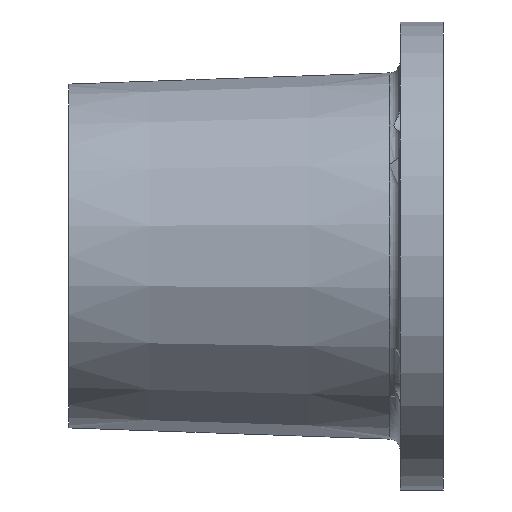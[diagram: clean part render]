
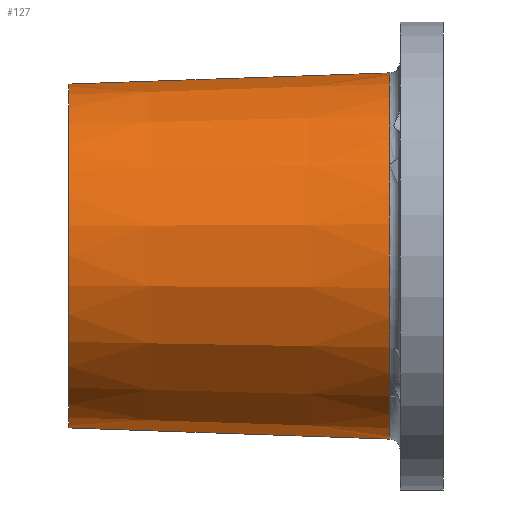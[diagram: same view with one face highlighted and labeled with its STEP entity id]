
A CAD part, left-side view. The second image highlights one B-rep face of the part: STEP entity #127.
In plain terms, the highlighted conical face has half-angle 2 degrees and reference radius 69.966 mm.
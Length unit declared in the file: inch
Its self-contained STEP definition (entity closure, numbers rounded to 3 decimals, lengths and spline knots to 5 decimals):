
#127 = ADVANCED_FACE ( 'NONE', ( #1567 ), #8176, .T. ) ;
#191 = VERTEX_POINT ( 'NONE', #1667 ) ;
#366 = CARTESIAN_POINT ( 'NONE',  ( 0., 6., -2.75457 ) ) ;
#473 = LINE ( 'NONE', #2322, #7710 ) ;
#568 = CARTESIAN_POINT ( 'NONE',  ( 0., 0.86372, 2.93393 ) ) ;
#859 = CARTESIAN_POINT ( 'NONE',  ( 0., 0.86372, -2.93393 ) ) ;
#1567 = FACE_OUTER_BOUND ( 'NONE', #6088, .T. ) ;
#1667 = CARTESIAN_POINT ( 'NONE',  ( 0., 6., -2.75457 ) ) ;
#1734 = DIRECTION ( 'NONE',  ( 0., 0., -1. ) ) ;
#2322 = CARTESIAN_POINT ( 'NONE',  ( 0., 6., 2.75457 ) ) ;
#2713 = DIRECTION ( 'NONE',  ( 0., -1., 0. ) ) ;
#2865 = VERTEX_POINT ( 'NONE', #859 ) ;
#3575 = AXIS2_PLACEMENT_3D ( 'NONE', #4072, #4156, #4096 ) ;
#3723 = CIRCLE ( 'NONE', #3945, 2.93393 ) ;
#3908 = VECTOR ( 'NONE', #5553, 39.37008 ) ;
#3945 = AXIS2_PLACEMENT_3D ( 'NONE', #4250, #5535, #1734 ) ;
#4072 = CARTESIAN_POINT ( 'NONE',  ( 0., 6., 0. ) ) ;
#4096 = DIRECTION ( 'NONE',  ( 0., 0., -1. ) ) ;
#4156 = DIRECTION ( 'NONE',  ( 0., -1., 0. ) ) ;
#4250 = CARTESIAN_POINT ( 'NONE',  ( 0., 0.86372, 0. ) ) ;
#4323 = EDGE_CURVE ( 'NONE', #5624, #191, #7415, .T. ) ;
#4555 = CARTESIAN_POINT ( 'NONE',  ( 0., 6., 2.75457 ) ) ;
#4817 = LINE ( 'NONE', #366, #3908 ) ;
#4865 = EDGE_CURVE ( 'NONE', #5624, #8188, #473, .T. ) ;
#5430 = ORIENTED_EDGE ( 'NONE', *, *, #4323, .T. ) ;
#5535 = DIRECTION ( 'NONE',  ( 0., 1., 0. ) ) ;
#5553 = DIRECTION ( 'NONE',  ( 0., -0.999, -0.035 ) ) ;
#5624 = VERTEX_POINT ( 'NONE', #4555 ) ;
#5872 = EDGE_CURVE ( 'NONE', #2865, #8188, #3723, .T. ) ;
#5921 = AXIS2_PLACEMENT_3D ( 'NONE', #6468, #2713, #7166 ) ;
#6071 = ORIENTED_EDGE ( 'NONE', *, *, #4865, .F. ) ;
#6088 = EDGE_LOOP ( 'NONE', ( #6071, #5430, #7745, #7664 ) ) ;
#6453 = EDGE_CURVE ( 'NONE', #191, #2865, #4817, .T. ) ;
#6468 = CARTESIAN_POINT ( 'NONE',  ( 0., 6., 0. ) ) ;
#7166 = DIRECTION ( 'NONE',  ( 0., 0., -1. ) ) ;
#7393 = DIRECTION ( 'NONE',  ( 0., -0.999, 0.035 ) ) ;
#7415 = CIRCLE ( 'NONE', #5921, 2.75457 ) ;
#7664 = ORIENTED_EDGE ( 'NONE', *, *, #5872, .T. ) ;
#7710 = VECTOR ( 'NONE', #7393, 39.37008 ) ;
#7745 = ORIENTED_EDGE ( 'NONE', *, *, #6453, .T. ) ;
#8176 = CONICAL_SURFACE ( 'NONE', #3575, 2.75457, 0.035 ) ;
#8188 = VERTEX_POINT ( 'NONE', #568 ) ;
